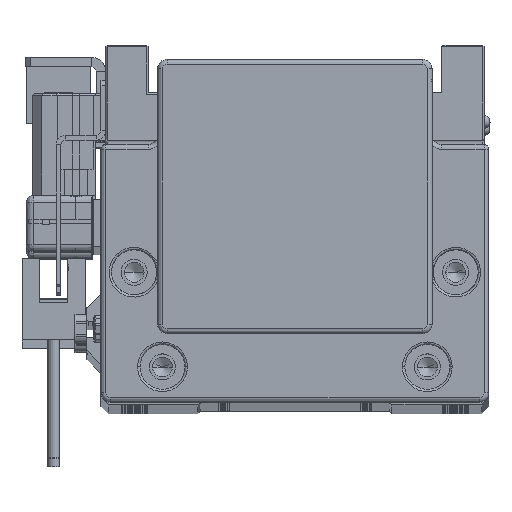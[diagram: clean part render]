
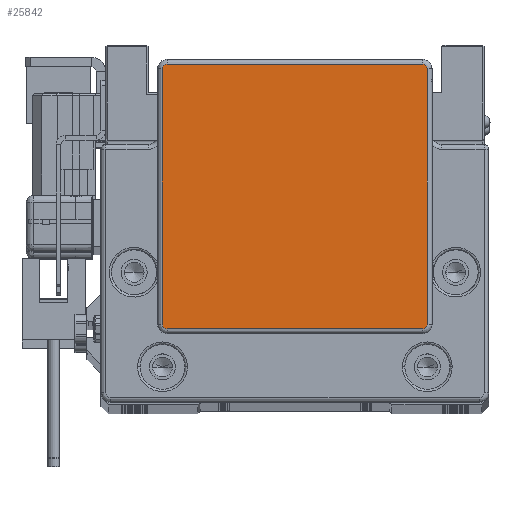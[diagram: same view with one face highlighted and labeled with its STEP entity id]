
A CAD part, top view. The second image highlights one B-rep face of the part: STEP entity #25842.
In plain terms, the highlighted planar face has unit normal (0, 0, 1).
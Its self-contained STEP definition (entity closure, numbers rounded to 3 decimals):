
#1536 = VERTEX_POINT ( 'NONE', #3170 ) ;
#1705 = CARTESIAN_POINT ( 'NONE',  ( -27., -19.75, 17. ) ) ;
#1957 = EDGE_CURVE ( 'NONE', #41450, #24711, #26847, .T. ) ;
#2150 = DIRECTION ( 'NONE',  ( 0., 0., 1. ) ) ;
#2185 = EDGE_LOOP ( 'NONE', ( #48483, #20129, #21120, #57730, #4616, #52721, #51878, #45033 ) ) ;
#2199 = LINE ( 'NONE', #11950, #61329 ) ;
#2206 = EDGE_CURVE ( 'NONE', #51605, #43043, #17818, .T. ) ;
#3170 = CARTESIAN_POINT ( 'NONE',  ( -28., -19.75, 17. ) ) ;
#3409 = DIRECTION ( 'NONE',  ( 1., 0., 0. ) ) ;
#4616 = ORIENTED_EDGE ( 'NONE', *, *, #46672, .T. ) ;
#7065 = CARTESIAN_POINT ( 'NONE',  ( 28., 34.25, 17. ) ) ;
#7728 = DIRECTION ( 'NONE',  ( -1., 0., 0. ) ) ;
#7815 = VECTOR ( 'NONE', #35625, 1000. ) ;
#8415 = CARTESIAN_POINT ( 'NONE',  ( -28., 34.25, 17. ) ) ;
#9549 = VECTOR ( 'NONE', #7728, 1000. ) ;
#9747 = VERTEX_POINT ( 'NONE', #48997 ) ;
#10906 = LINE ( 'NONE', #58902, #9549 ) ;
#11950 = CARTESIAN_POINT ( 'NONE',  ( -28., -19.75, 17. ) ) ;
#12287 = CARTESIAN_POINT ( 'NONE',  ( -27., 35.25, 17. ) ) ;
#13943 = VERTEX_POINT ( 'NONE', #40604 ) ;
#17415 = LINE ( 'NONE', #7065, #7815 ) ;
#17818 = CIRCLE ( 'NONE', #60908, 1. ) ;
#18128 = DIRECTION ( 'NONE',  ( 1., 0., 0. ) ) ;
#20129 = ORIENTED_EDGE ( 'NONE', *, *, #2206, .T. ) ;
#20846 = DIRECTION ( 'NONE',  ( 1., 0., 0. ) ) ;
#21120 = ORIENTED_EDGE ( 'NONE', *, *, #40267, .T. ) ;
#21146 = PLANE ( 'NONE',  #29968 ) ;
#22559 = EDGE_CURVE ( 'NONE', #42580, #41450, #17415, .T. ) ;
#22847 = LINE ( 'NONE', #41975, #27812 ) ;
#23498 = CIRCLE ( 'NONE', #53575, 1. ) ;
#24634 = CIRCLE ( 'NONE', #59698, 1. ) ;
#24711 = VERTEX_POINT ( 'NONE', #48777 ) ;
#24715 = CARTESIAN_POINT ( 'NONE',  ( -27., 34.25, 17. ) ) ;
#25842 = ADVANCED_FACE ( 'NONE', ( #55050 ), #21146, .T. ) ;
#26376 = CARTESIAN_POINT ( 'NONE',  ( 28., 34.25, 17. ) ) ;
#26847 = CIRCLE ( 'NONE', #45915, 1. ) ;
#26972 = CARTESIAN_POINT ( 'NONE',  ( 27., 34.25, 17. ) ) ;
#27266 = DIRECTION ( 'NONE',  ( 0., 0., 1. ) ) ;
#27812 = VECTOR ( 'NONE', #18128, 1000. ) ;
#29968 = AXIS2_PLACEMENT_3D ( 'NONE', #1705, #44687, #20846 ) ;
#35625 = DIRECTION ( 'NONE',  ( 0., 1., 0. ) ) ;
#36020 = EDGE_CURVE ( 'NONE', #13943, #42580, #24634, .T. ) ;
#36670 = DIRECTION ( 'NONE',  ( 0., 0., 1. ) ) ;
#39135 = DIRECTION ( 'NONE',  ( 1., 0., 0. ) ) ;
#40267 = EDGE_CURVE ( 'NONE', #43043, #1536, #2199, .T. ) ;
#40604 = CARTESIAN_POINT ( 'NONE',  ( 27., -20.75, 17. ) ) ;
#41450 = VERTEX_POINT ( 'NONE', #26376 ) ;
#41975 = CARTESIAN_POINT ( 'NONE',  ( 27., -20.75, 17. ) ) ;
#42580 = VERTEX_POINT ( 'NONE', #45292 ) ;
#43043 = VERTEX_POINT ( 'NONE', #8415 ) ;
#43352 = EDGE_CURVE ( 'NONE', #24711, #51605, #10906, .T. ) ;
#43857 = DIRECTION ( 'NONE',  ( 0., 0., 1. ) ) ;
#44687 = DIRECTION ( 'NONE',  ( 0., 0., 1. ) ) ;
#45033 = ORIENTED_EDGE ( 'NONE', *, *, #1957, .T. ) ;
#45292 = CARTESIAN_POINT ( 'NONE',  ( 28., -19.75, 17. ) ) ;
#45777 = CARTESIAN_POINT ( 'NONE',  ( -27., -19.75, 17. ) ) ;
#45915 = AXIS2_PLACEMENT_3D ( 'NONE', #26972, #36670, #46411 ) ;
#46411 = DIRECTION ( 'NONE',  ( 1., 0., 0. ) ) ;
#46672 = EDGE_CURVE ( 'NONE', #9747, #13943, #22847, .T. ) ;
#48483 = ORIENTED_EDGE ( 'NONE', *, *, #43352, .T. ) ;
#48777 = CARTESIAN_POINT ( 'NONE',  ( 27., 35.25, 17. ) ) ;
#48997 = CARTESIAN_POINT ( 'NONE',  ( -27., -20.75, 17. ) ) ;
#51605 = VERTEX_POINT ( 'NONE', #12287 ) ;
#51878 = ORIENTED_EDGE ( 'NONE', *, *, #22559, .T. ) ;
#52721 = ORIENTED_EDGE ( 'NONE', *, *, #36020, .T. ) ;
#53575 = AXIS2_PLACEMENT_3D ( 'NONE', #45777, #2150, #55814 ) ;
#55050 = FACE_OUTER_BOUND ( 'NONE', #2185, .T. ) ;
#55814 = DIRECTION ( 'NONE',  ( 1., 0., 0. ) ) ;
#57730 = ORIENTED_EDGE ( 'NONE', *, *, #60658, .T. ) ;
#58902 = CARTESIAN_POINT ( 'NONE',  ( -27., 35.25, 17. ) ) ;
#59698 = AXIS2_PLACEMENT_3D ( 'NONE', #59894, #27266, #3409 ) ;
#59894 = CARTESIAN_POINT ( 'NONE',  ( 27., -19.75, 17. ) ) ;
#59931 = DIRECTION ( 'NONE',  ( 0., -1., 0. ) ) ;
#60658 = EDGE_CURVE ( 'NONE', #1536, #9747, #23498, .T. ) ;
#60908 = AXIS2_PLACEMENT_3D ( 'NONE', #24715, #43857, #39135 ) ;
#61329 = VECTOR ( 'NONE', #59931, 1000. ) ;
